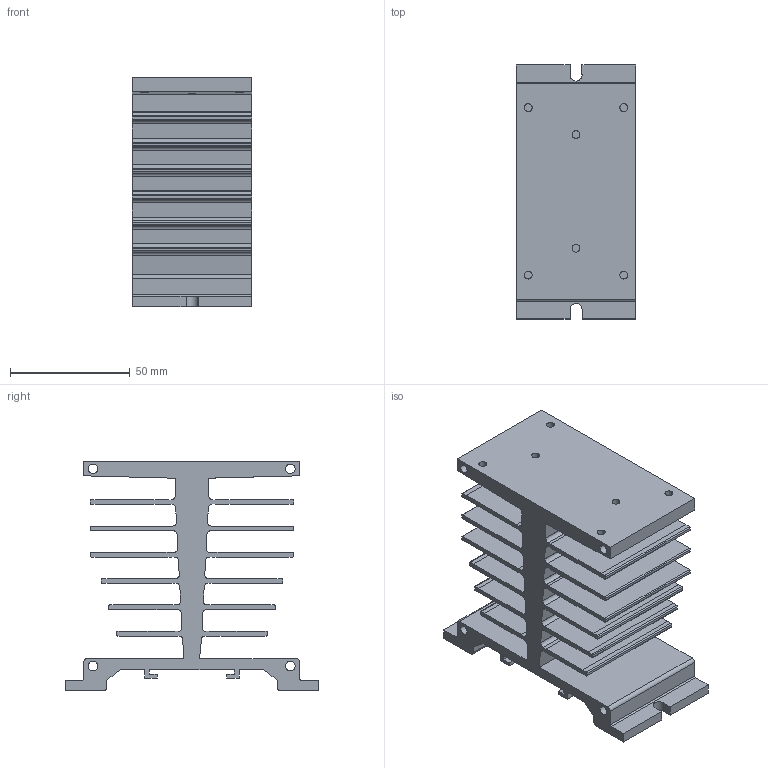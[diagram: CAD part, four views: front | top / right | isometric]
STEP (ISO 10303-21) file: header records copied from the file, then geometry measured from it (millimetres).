
FILE_DESCRIPTION (( 'STEP AP214' ), '1' );
FILE_NAME ('HS_020.STEP', '2024-04-12T11:38:20', ( '' ), ( '' ), 'SwSTEP 2.0', 'SolidWorks 2022', '' );
FILE_SCHEMA (( 'AUTOMOTIVE_DESIGN' ));
Length unit declared in the file: millimetre
Products named in the file (1): HS_020
Bounding box: 50 x 106.2 x 95.8 mm (x, y, z)
Volume: 142843.5 mm3; surface area: 77190 mm2
Topology: 1 solids, 1 shells, 242 faces, 720 edges, 480 vertices
Faces by surface type: plane 130, cylinder 112
Entity records: 8238 total; most frequent: CARTESIAN_POINT 1503, ORIENTED_EDGE 1440, DIRECTION 1398, EDGE_CURVE 720, VECTOR 488, LINE 488, VERTEX_POINT 480, AXIS2_PLACEMENT_3D 455
